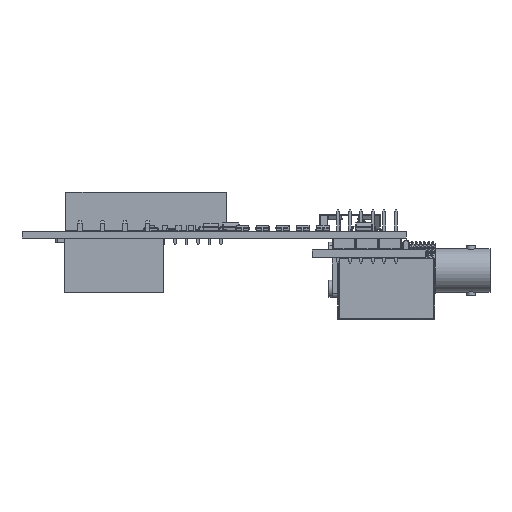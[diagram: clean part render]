
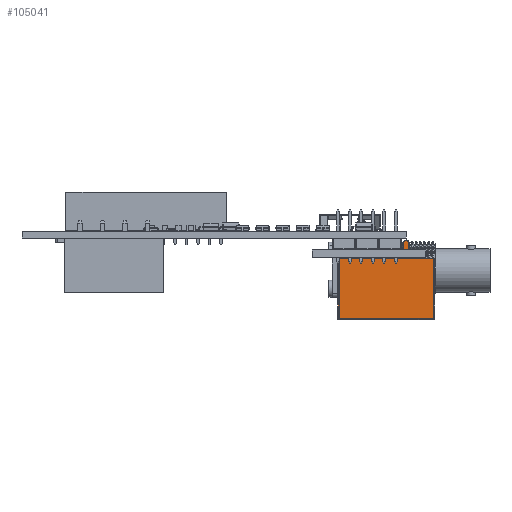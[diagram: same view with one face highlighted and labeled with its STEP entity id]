
A CAD part, left-side view. The second image highlights one B-rep face of the part: STEP entity #105041.
In plain terms, the highlighted planar face has unit normal (-1, 0, 0).
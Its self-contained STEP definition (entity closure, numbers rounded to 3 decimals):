
#103368 = VERTEX_POINT('',#103369);
#103369 = CARTESIAN_POINT('',(3.45,5.8,1.9));
#103439 = VERTEX_POINT('',#103440);
#103440 = CARTESIAN_POINT('',(3.45,5.8,15.3));
#103511 = EDGE_CURVE('',#103368,#103439,#103512,.T.);
#103512 = B_SPLINE_CURVE_WITH_KNOTS('',1,(#103513,#103514),
  .UNSPECIFIED.,.F.,.F.,(2,2),(0.,13.4),.PIECEWISE_BEZIER_KNOTS.);
#103513 = CARTESIAN_POINT('',(3.45,5.8,1.9));
#103514 = CARTESIAN_POINT('',(3.45,5.8,15.3));
#103668 = VERTEX_POINT('',#103669);
#103669 = CARTESIAN_POINT('',(3.45,27.,15.3));
#103880 = VERTEX_POINT('',#103881);
#103881 = CARTESIAN_POINT('',(3.45,27.,1.9));
#103943 = VERTEX_POINT('',#103944);
#103944 = CARTESIAN_POINT('',(3.45,21.355,1.9));
#103952 = EDGE_CURVE('',#103880,#103943,#103953,.T.);
#103953 = B_SPLINE_CURVE_WITH_KNOTS('',1,(#103954,#103955),
  .UNSPECIFIED.,.F.,.F.,(2,2),(0.,5.645),.PIECEWISE_BEZIER_KNOTS.);
#103954 = CARTESIAN_POINT('',(3.45,27.,1.9));
#103955 = CARTESIAN_POINT('',(3.45,21.355,1.9));
#104294 = EDGE_CURVE('',#103668,#103880,#104295,.T.);
#104295 = B_SPLINE_CURVE_WITH_KNOTS('',1,(#104296,#104297),
  .UNSPECIFIED.,.F.,.F.,(2,2),(0.,13.4),.PIECEWISE_BEZIER_KNOTS.);
#104296 = CARTESIAN_POINT('',(3.45,27.,15.3));
#104297 = CARTESIAN_POINT('',(3.45,27.,1.9));
#104591 = EDGE_CURVE('',#103668,#103439,#104592,.T.);
#104592 = B_SPLINE_CURVE_WITH_KNOTS('',1,(#104593,#104594),
  .UNSPECIFIED.,.F.,.F.,(2,2),(0.,21.2),.PIECEWISE_BEZIER_KNOTS.);
#104593 = CARTESIAN_POINT('',(3.45,27.,15.3));
#104594 = CARTESIAN_POINT('',(3.45,5.8,15.3));
#104634 = VERTEX_POINT('',#104635);
#104635 = CARTESIAN_POINT('',(3.45,21.355,-1.565));
#104641 = EDGE_CURVE('',#103943,#104634,#104642,.T.);
#104642 = B_SPLINE_CURVE_WITH_KNOTS('',1,(#104643,#104644),
  .UNSPECIFIED.,.F.,.F.,(2,2),(0.,3.465),.PIECEWISE_BEZIER_KNOTS.);
#104643 = CARTESIAN_POINT('',(3.45,21.355,1.9));
#104644 = CARTESIAN_POINT('',(3.45,21.355,-1.565));
#104678 = VERTEX_POINT('',#104679);
#104679 = CARTESIAN_POINT('',(3.45,20.82,-2.1));
#104685 = EDGE_CURVE('',#104634,#104678,#104686,.T.);
#104686 = ( BOUNDED_CURVE() B_SPLINE_CURVE(2,(#104687,#104688,#104689),
.UNSPECIFIED.,.F.,.F.) B_SPLINE_CURVE_WITH_KNOTS((3,3),(0.,
0.84),.PIECEWISE_BEZIER_KNOTS.) CURVE() 
GEOMETRIC_REPRESENTATION_ITEM() RATIONAL_B_SPLINE_CURVE((1.,
0.707,1.)) REPRESENTATION_ITEM('') );
#104687 = CARTESIAN_POINT('',(3.45,21.355,-1.565));
#104688 = CARTESIAN_POINT('',(3.45,21.355,-2.1));
#104689 = CARTESIAN_POINT('',(3.45,20.82,-2.1));
#104776 = EDGE_CURVE('',#104678,#104777,#104779,.T.);
#104777 = VERTEX_POINT('',#104778);
#104778 = CARTESIAN_POINT('',(3.45,20.285,-1.565));
#104779 = ( BOUNDED_CURVE() B_SPLINE_CURVE(2,(#104780,#104781,#104782),
.UNSPECIFIED.,.F.,.F.) B_SPLINE_CURVE_WITH_KNOTS((3,3),(0.84,
1.681),.PIECEWISE_BEZIER_KNOTS.) CURVE() 
GEOMETRIC_REPRESENTATION_ITEM() RATIONAL_B_SPLINE_CURVE((1.,
0.707,1.)) REPRESENTATION_ITEM('') );
#104780 = CARTESIAN_POINT('',(3.45,20.82,-2.1));
#104781 = CARTESIAN_POINT('',(3.45,20.285,-2.1));
#104782 = CARTESIAN_POINT('',(3.45,20.285,-1.565));
#104885 = VERTEX_POINT('',#104886);
#104886 = CARTESIAN_POINT('',(3.45,20.285,1.9));
#104894 = EDGE_CURVE('',#104777,#104885,#104895,.T.);
#104895 = B_SPLINE_CURVE_WITH_KNOTS('',1,(#104896,#104897),
  .UNSPECIFIED.,.F.,.F.,(2,2),(0.,3.465),.PIECEWISE_BEZIER_KNOTS.);
#104896 = CARTESIAN_POINT('',(3.45,20.285,-1.565));
#104897 = CARTESIAN_POINT('',(3.45,20.285,1.9));
#104968 = EDGE_CURVE('',#104885,#103368,#104969,.T.);
#104969 = B_SPLINE_CURVE_WITH_KNOTS('',1,(#104970,#104971),
  .UNSPECIFIED.,.F.,.F.,(2,2),(0.,14.485),.PIECEWISE_BEZIER_KNOTS.);
#104970 = CARTESIAN_POINT('',(3.45,20.285,1.9));
#104971 = CARTESIAN_POINT('',(3.45,5.8,1.9));
#105041 = ADVANCED_FACE('',(#105042),#105053,.T.);
#105042 = FACE_BOUND('',#105043,.T.);
#105043 = EDGE_LOOP('',(#105044,#105045,#105046,#105047,#105048,#105049,
    #105050,#105051,#105052));
#105044 = ORIENTED_EDGE('',*,*,#104641,.T.);
#105045 = ORIENTED_EDGE('',*,*,#104685,.T.);
#105046 = ORIENTED_EDGE('',*,*,#104776,.T.);
#105047 = ORIENTED_EDGE('',*,*,#104894,.T.);
#105048 = ORIENTED_EDGE('',*,*,#104968,.T.);
#105049 = ORIENTED_EDGE('',*,*,#103511,.T.);
#105050 = ORIENTED_EDGE('',*,*,#104591,.F.);
#105051 = ORIENTED_EDGE('',*,*,#104294,.T.);
#105052 = ORIENTED_EDGE('',*,*,#103952,.T.);
#105053 = PLANE('',#105054);
#105054 = AXIS2_PLACEMENT_3D('',#105055,#105056,#105057);
#105055 = CARTESIAN_POINT('',(3.45,3.56,-3.96));
#105056 = DIRECTION('',(-1.,0.,0.));
#105057 = DIRECTION('',(0.,0.,-1.));
